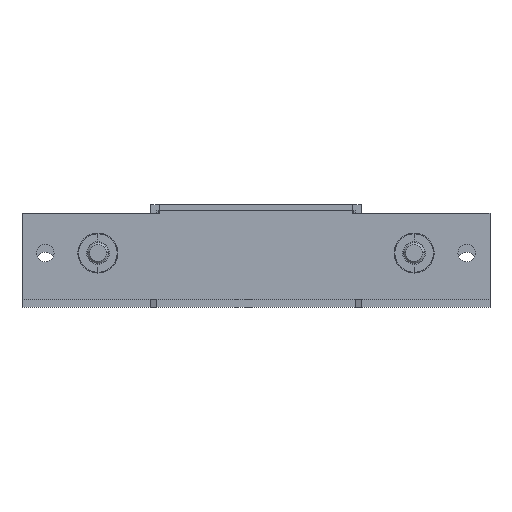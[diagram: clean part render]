
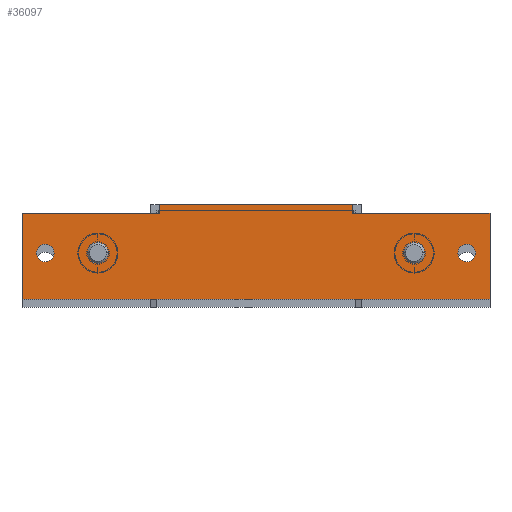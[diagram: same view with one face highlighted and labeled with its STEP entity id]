
A CAD part, top view. The second image highlights one B-rep face of the part: STEP entity #36097.
In plain terms, the highlighted planar face has unit normal (0, 0, 1).
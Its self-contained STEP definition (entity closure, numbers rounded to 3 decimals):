
#3754 = VERTEX_POINT('',#3755);
#3755 = CARTESIAN_POINT('',(-47.9,-11.5,548.5));
#3761 = EDGE_CURVE('',#3762,#3754,#3764,.T.);
#3762 = VERTEX_POINT('',#3763);
#3763 = CARTESIAN_POINT('',(-52.1,-11.5,548.5));
#3764 = CIRCLE('',#3765,2.1);
#3765 = AXIS2_PLACEMENT_3D('',#3766,#3767,#3768);
#3766 = CARTESIAN_POINT('',(-50.,-11.5,548.5));
#3767 = DIRECTION('',(0.,0.,1.));
#3768 = DIRECTION('',(1.,0.,-0.));
#3796 = VERTEX_POINT('',#3797);
#3797 = CARTESIAN_POINT('',(39.6,-11.5,548.5));
#3803 = EDGE_CURVE('',#3804,#3796,#3806,.T.);
#3804 = VERTEX_POINT('',#3805);
#3805 = CARTESIAN_POINT('',(35.4,-11.5,548.5));
#3806 = CIRCLE('',#3807,2.1);
#3807 = AXIS2_PLACEMENT_3D('',#3808,#3809,#3810);
#3808 = CARTESIAN_POINT('',(37.5,-11.5,548.5));
#3809 = DIRECTION('',(0.,0.,1.));
#3810 = DIRECTION('',(-1.,0.,0.));
#3838 = VERTEX_POINT('',#3839);
#3839 = CARTESIAN_POINT('',(52.1,-11.5,548.5));
#3845 = EDGE_CURVE('',#3846,#3838,#3848,.T.);
#3846 = VERTEX_POINT('',#3847);
#3847 = CARTESIAN_POINT('',(47.9,-11.5,548.5));
#3848 = CIRCLE('',#3849,2.1);
#3849 = AXIS2_PLACEMENT_3D('',#3850,#3851,#3852);
#3850 = CARTESIAN_POINT('',(50.,-11.5,548.5));
#3851 = DIRECTION('',(0.,0.,1.));
#3852 = DIRECTION('',(-1.,0.,0.));
#3880 = VERTEX_POINT('',#3881);
#3881 = CARTESIAN_POINT('',(-35.4,-11.5,548.5));
#3887 = EDGE_CURVE('',#3888,#3880,#3890,.T.);
#3888 = VERTEX_POINT('',#3889);
#3889 = CARTESIAN_POINT('',(-39.6,-11.5,548.5));
#3890 = CIRCLE('',#3891,2.1);
#3891 = AXIS2_PLACEMENT_3D('',#3892,#3893,#3894);
#3892 = CARTESIAN_POINT('',(-37.5,-11.5,548.5));
#3893 = DIRECTION('',(0.,0.,1.));
#3894 = DIRECTION('',(1.,0.,-0.));
#15059 = VERTEX_POINT('',#15060);
#15060 = CARTESIAN_POINT('',(-22.9,0.,548.5));
#15066 = EDGE_CURVE('',#15067,#15059,#15069,.T.);
#15067 = VERTEX_POINT('',#15068);
#15068 = CARTESIAN_POINT('',(22.9,0.,548.5));
#15069 = LINE('',#15070,#15071);
#15070 = CARTESIAN_POINT('',(-25.,0.,548.5));
#15071 = VECTOR('',#15072,1.);
#15072 = DIRECTION('',(-1.,0.,0.));
#36038 = VERTEX_POINT('',#36039);
#36039 = CARTESIAN_POINT('',(22.9,-2.1,548.5));
#36054 = EDGE_CURVE('',#36038,#15067,#36055,.T.);
#36055 = LINE('',#36056,#36057);
#36056 = CARTESIAN_POINT('',(22.9,-2.1,548.5));
#36057 = VECTOR('',#36058,1.);
#36058 = DIRECTION('',(-0.,1.,0.));
#36078 = VERTEX_POINT('',#36079);
#36079 = CARTESIAN_POINT('',(-22.9,-2.1,548.5));
#36085 = EDGE_CURVE('',#36078,#15059,#36086,.T.);
#36086 = LINE('',#36087,#36088);
#36087 = CARTESIAN_POINT('',(-22.9,0.,548.5));
#36088 = VECTOR('',#36089,1.);
#36089 = DIRECTION('',(0.,1.,0.));
#36097 = ADVANCED_FACE('',(#36098,#36108,#36118,#36128,#36138),#36181,
  .T.);
#36098 = FACE_BOUND('',#36099,.T.);
#36099 = EDGE_LOOP('',(#36100,#36107));
#36100 = ORIENTED_EDGE('',*,*,#36101,.F.);
#36101 = EDGE_CURVE('',#3754,#3762,#36102,.T.);
#36102 = CIRCLE('',#36103,2.1);
#36103 = AXIS2_PLACEMENT_3D('',#36104,#36105,#36106);
#36104 = CARTESIAN_POINT('',(-50.,-11.5,548.5));
#36105 = DIRECTION('',(0.,0.,1.));
#36106 = DIRECTION('',(1.,0.,-0.));
#36107 = ORIENTED_EDGE('',*,*,#3761,.F.);
#36108 = FACE_BOUND('',#36109,.T.);
#36109 = EDGE_LOOP('',(#36110,#36117));
#36110 = ORIENTED_EDGE('',*,*,#36111,.F.);
#36111 = EDGE_CURVE('',#3796,#3804,#36112,.T.);
#36112 = CIRCLE('',#36113,2.1);
#36113 = AXIS2_PLACEMENT_3D('',#36114,#36115,#36116);
#36114 = CARTESIAN_POINT('',(37.5,-11.5,548.5));
#36115 = DIRECTION('',(0.,0.,1.));
#36116 = DIRECTION('',(-1.,0.,0.));
#36117 = ORIENTED_EDGE('',*,*,#3803,.F.);
#36118 = FACE_BOUND('',#36119,.T.);
#36119 = EDGE_LOOP('',(#36120,#36127));
#36120 = ORIENTED_EDGE('',*,*,#36121,.F.);
#36121 = EDGE_CURVE('',#3838,#3846,#36122,.T.);
#36122 = CIRCLE('',#36123,2.1);
#36123 = AXIS2_PLACEMENT_3D('',#36124,#36125,#36126);
#36124 = CARTESIAN_POINT('',(50.,-11.5,548.5));
#36125 = DIRECTION('',(0.,0.,1.));
#36126 = DIRECTION('',(-1.,0.,0.));
#36127 = ORIENTED_EDGE('',*,*,#3845,.F.);
#36128 = FACE_BOUND('',#36129,.T.);
#36129 = EDGE_LOOP('',(#36130,#36137));
#36130 = ORIENTED_EDGE('',*,*,#36131,.F.);
#36131 = EDGE_CURVE('',#3880,#3888,#36132,.T.);
#36132 = CIRCLE('',#36133,2.1);
#36133 = AXIS2_PLACEMENT_3D('',#36134,#36135,#36136);
#36134 = CARTESIAN_POINT('',(-37.5,-11.5,548.5));
#36135 = DIRECTION('',(0.,0.,1.));
#36136 = DIRECTION('',(1.,0.,-0.));
#36137 = ORIENTED_EDGE('',*,*,#3887,.F.);
#36138 = FACE_BOUND('',#36139,.T.);
#36139 = EDGE_LOOP('',(#36140,#36150,#36158,#36164,#36165,#36166,#36167,
    #36175));
#36140 = ORIENTED_EDGE('',*,*,#36141,.F.);
#36141 = EDGE_CURVE('',#36142,#36144,#36146,.T.);
#36142 = VERTEX_POINT('',#36143);
#36143 = CARTESIAN_POINT('',(55.5,-22.5,548.5));
#36144 = VERTEX_POINT('',#36145);
#36145 = CARTESIAN_POINT('',(-55.5,-22.5,548.5));
#36146 = LINE('',#36147,#36148);
#36147 = CARTESIAN_POINT('',(-22.9,-22.5,548.5));
#36148 = VECTOR('',#36149,1.);
#36149 = DIRECTION('',(-1.,0.,-0.));
#36150 = ORIENTED_EDGE('',*,*,#36151,.F.);
#36151 = EDGE_CURVE('',#36152,#36142,#36154,.T.);
#36152 = VERTEX_POINT('',#36153);
#36153 = CARTESIAN_POINT('',(55.5,-2.1,548.5));
#36154 = LINE('',#36155,#36156);
#36155 = CARTESIAN_POINT('',(55.5,-19.5,548.5));
#36156 = VECTOR('',#36157,1.);
#36157 = DIRECTION('',(0.,-1.,0.));
#36158 = ORIENTED_EDGE('',*,*,#36159,.F.);
#36159 = EDGE_CURVE('',#36038,#36152,#36160,.T.);
#36160 = LINE('',#36161,#36162);
#36161 = CARTESIAN_POINT('',(22.9,-2.1,548.5));
#36162 = VECTOR('',#36163,1.);
#36163 = DIRECTION('',(1.,0.,0.));
#36164 = ORIENTED_EDGE('',*,*,#36054,.T.);
#36165 = ORIENTED_EDGE('',*,*,#15066,.T.);
#36166 = ORIENTED_EDGE('',*,*,#36085,.F.);
#36167 = ORIENTED_EDGE('',*,*,#36168,.T.);
#36168 = EDGE_CURVE('',#36078,#36169,#36171,.T.);
#36169 = VERTEX_POINT('',#36170);
#36170 = CARTESIAN_POINT('',(-55.5,-2.1,548.5));
#36171 = LINE('',#36172,#36173);
#36172 = CARTESIAN_POINT('',(-22.9,-2.1,548.5));
#36173 = VECTOR('',#36174,1.);
#36174 = DIRECTION('',(-1.,0.,0.));
#36175 = ORIENTED_EDGE('',*,*,#36176,.T.);
#36176 = EDGE_CURVE('',#36169,#36144,#36177,.T.);
#36177 = LINE('',#36178,#36179);
#36178 = CARTESIAN_POINT('',(-55.5,-19.5,548.5));
#36179 = VECTOR('',#36180,1.);
#36180 = DIRECTION('',(0.,-1.,-0.));
#36181 = PLANE('',#36182);
#36182 = AXIS2_PLACEMENT_3D('',#36183,#36184,#36185);
#36183 = CARTESIAN_POINT('',(0.,0.,
    548.5));
#36184 = DIRECTION('',(0.,0.,1.));
#36185 = DIRECTION('',(0.,-1.,0.));
